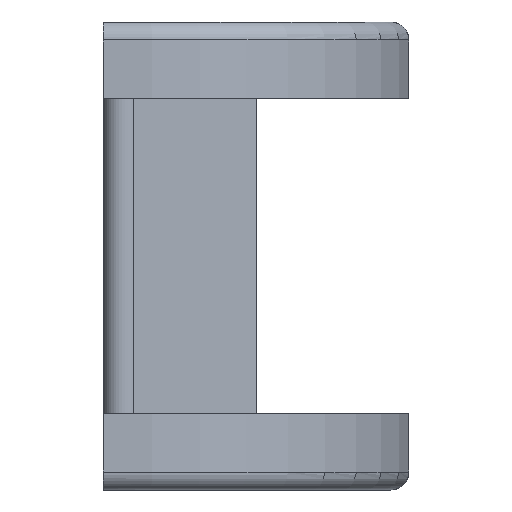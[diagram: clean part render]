
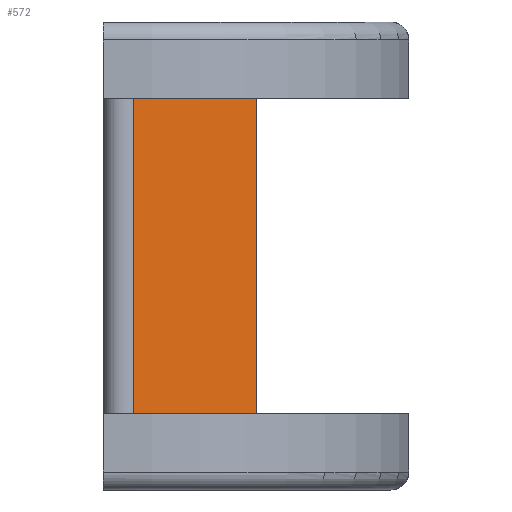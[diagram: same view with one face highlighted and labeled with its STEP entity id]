
A CAD part, front view. The second image highlights one B-rep face of the part: STEP entity #572.
In plain terms, the highlighted planar face has unit normal (0.662, -0.75, 0).
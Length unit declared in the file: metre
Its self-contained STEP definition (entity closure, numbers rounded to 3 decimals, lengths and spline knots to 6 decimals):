
#55=LINE('',#914,#105);
#66=LINE('',#943,#116);
#67=LINE('',#946,#117);
#68=LINE('',#947,#118);
#105=VECTOR('',#727,1.);
#116=VECTOR('',#754,1.);
#117=VECTOR('',#755,1.);
#118=VECTOR('',#756,1.);
#196=ORIENTED_EDGE('',*,*,#339,.F.);
#197=ORIENTED_EDGE('',*,*,#340,.T.);
#198=ORIENTED_EDGE('',*,*,#324,.T.);
#199=ORIENTED_EDGE('',*,*,#341,.F.);
#324=EDGE_CURVE('',#399,#398,#55,.T.);
#339=EDGE_CURVE('',#409,#410,#66,.T.);
#340=EDGE_CURVE('',#409,#399,#67,.T.);
#341=EDGE_CURVE('',#410,#398,#68,.T.);
#398=VERTEX_POINT('',#913);
#399=VERTEX_POINT('',#915);
#409=VERTEX_POINT('',#944);
#410=VERTEX_POINT('',#945);
#467=EDGE_LOOP('',(#196,#197,#198,#199));
#513=FACE_BOUND('',#467,.T.);
#554=PLANE('',#631);
#572=ADVANCED_FACE('',(#513),#554,.F.);
#631=AXIS2_PLACEMENT_3D('',#942,#752,#753);
#727=DIRECTION('',(0.75,0.662,0.));
#752=DIRECTION('',(-0.662,0.75,0.));
#753=DIRECTION('',(-0.75,-0.662,0.));
#754=DIRECTION('',(0.75,0.662,0.));
#755=DIRECTION('',(0.,0.,-1.));
#756=DIRECTION('',(0.,0.,-1.));
#913=CARTESIAN_POINT('',(0.,-0.047625,0.));
#914=CARTESIAN_POINT('',(-0.005398,-0.052388,0.));
#915=CARTESIAN_POINT('',(-0.008685,-0.055288,0.));
#942=CARTESIAN_POINT('',(-0.005398,-0.052388,0.02225));
#943=CARTESIAN_POINT('',(-0.005398,-0.052388,0.02225));
#944=CARTESIAN_POINT('',(-0.008685,-0.055288,0.02225));
#945=CARTESIAN_POINT('',(0.,-0.047625,0.02225));
#946=CARTESIAN_POINT('',(-0.008685,-0.055288,0.02225));
#947=CARTESIAN_POINT('',(0.,-0.047625,0.02225));
